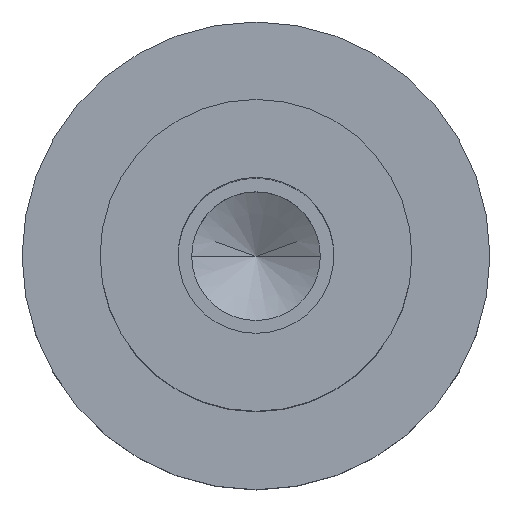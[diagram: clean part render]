
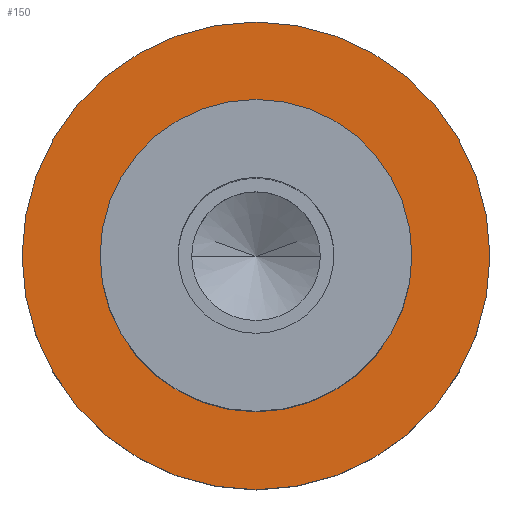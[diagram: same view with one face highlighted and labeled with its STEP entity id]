
A CAD part, top view. The second image highlights one B-rep face of the part: STEP entity #150.
In plain terms, the highlighted planar face has unit normal (0, 0, 1).
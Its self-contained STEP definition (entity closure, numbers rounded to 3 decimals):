
#101=PLANE('',#564);
#110=FACE_BOUND('',#211,.T.);
#111=FACE_BOUND('',#212,.T.);
#150=ADVANCED_FACE('',(#110,#111),#101,.T.);
#211=EDGE_LOOP('',(#319,#320));
#212=EDGE_LOOP('',(#321,#322));
#247=CIRCLE('',#558,4.);
#248=CIRCLE('',#560,4.);
#249=CIRCLE('',#562,6.);
#250=CIRCLE('',#563,6.);
#319=ORIENTED_EDGE('',*,*,#455,.F.);
#320=ORIENTED_EDGE('',*,*,#456,.F.);
#321=ORIENTED_EDGE('',*,*,#454,.T.);
#322=ORIENTED_EDGE('',*,*,#452,.T.);
#406=VERTEX_POINT('',#812);
#407=VERTEX_POINT('',#814);
#408=VERTEX_POINT('',#820);
#409=VERTEX_POINT('',#821);
#452=EDGE_CURVE('',#407,#406,#247,.T.);
#454=EDGE_CURVE('',#406,#407,#248,.T.);
#455=EDGE_CURVE('',#408,#409,#249,.T.);
#456=EDGE_CURVE('',#409,#408,#250,.T.);
#558=AXIS2_PLACEMENT_3D('',#813,#660,#661);
#560=AXIS2_PLACEMENT_3D('',#817,#665,#666);
#562=AXIS2_PLACEMENT_3D('',#819,#669,#670);
#563=AXIS2_PLACEMENT_3D('',#822,#671,#672);
#564=AXIS2_PLACEMENT_3D('',#823,#673,#674);
#660=DIRECTION('',(0.,0.,-1.));
#661=DIRECTION('',(0.,1.,0.));
#665=DIRECTION('',(0.,0.,-1.));
#666=DIRECTION('',(0.,-1.,0.));
#669=DIRECTION('',(0.,0.,-1.));
#670=DIRECTION('',(0.,1.,0.));
#671=DIRECTION('',(0.,0.,-1.));
#672=DIRECTION('',(0.,-1.,0.));
#673=DIRECTION('',(0.,0.,1.));
#674=DIRECTION('',(0.,-1.,0.));
#812=CARTESIAN_POINT('',(-4.,0.,0.));
#813=CARTESIAN_POINT('',(0.,0.,0.));
#814=CARTESIAN_POINT('',(4.,0.,0.));
#817=CARTESIAN_POINT('',(0.,0.,0.));
#819=CARTESIAN_POINT('',(0.,0.,0.));
#820=CARTESIAN_POINT('',(6.,0.,0.));
#821=CARTESIAN_POINT('',(-6.,0.,0.));
#822=CARTESIAN_POINT('',(0.,0.,0.));
#823=CARTESIAN_POINT('',(0.,0.,0.));
